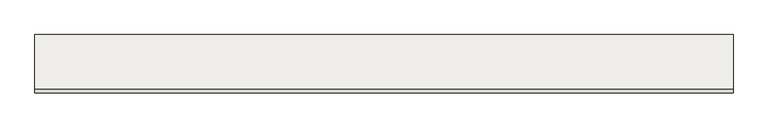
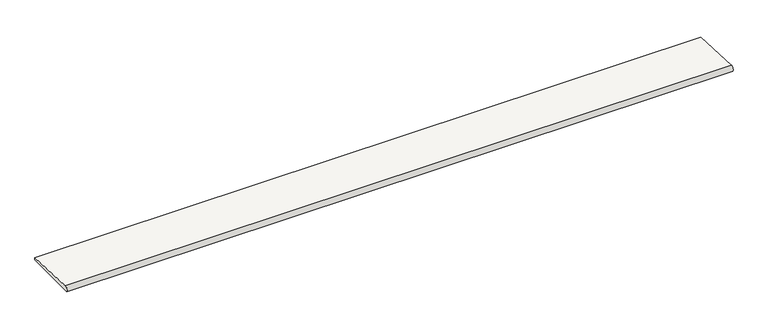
"""IFC4 building model written with IfcOpenShell, lengths in millimetres: slab geometry, ROSA GRES_S62 : Pieza S62_Serena_Griggio_Anti-Slip."""

from ifc_helpers import new_model, si_unit, point, frame, frame_2d, origin, place, context, project, spatial, polyline, circle_curve, trimmed, segment, composite_curve, outline, extrude, source, transform, mapped, element, save


def slab_9aa3cb7b(model_context):
    return source(origin(), model_context, "Body", "SweptSolid", [
        extrude(outline(composite_curve([segment(polyline([(14.738484, 26.0545458), (306.6389713, 12.0), (306.6389713, 0.0), (0.0, 0.0)]), True, "CONTINUOUS"), segment(trimmed(circle_curve(frame_2d((13.9724374, 9.2919904)), 16.7800504), [point((0.0, 0.0))], [point((14.738484, 26.0545458))], False, "CARTESIAN"), True, "CONTINUOUS")], self_intersect=False)), frame((0.0, 0.0, 0.0), z_axis=(1.0, 0.0, 0.0), x_axis=(0.0, 1.0, 0.0)), (0.0, 0.0, 1.0), 3700.0000309),
    ])


if __name__ == "__main__":
    model = new_model("IFC4")
    model_context = context("Model", 3, world=origin())
    ifc_project = project(units=[si_unit("LENGTHUNIT", "METRE", prefix="MILLI")], contexts=[model_context])
    site = spatial("IfcSite", under=ifc_project)
    building = spatial("IfcBuilding", under=site)
    placement = place(None, origin())
    slab_shape = slab_9aa3cb7b(model_context)
    element("IfcSlab", 1, ObjectType="ROSA GRES_S62 : Pieza S62_Serena_Griggio_Anti-Slip", at=placement, inside=building, context=model_context, shape_type="MappedRepresentation", body=[
        mapped(slab_shape, transform((0.0, 0.0, 0.0), x_axis=(1.0, 0.0, 0.0), y_axis=(0.0, 1.0, 0.0), z_axis=(0.0, 0.0, 1.0))),
    ])
    save(model, "model.ifc")
